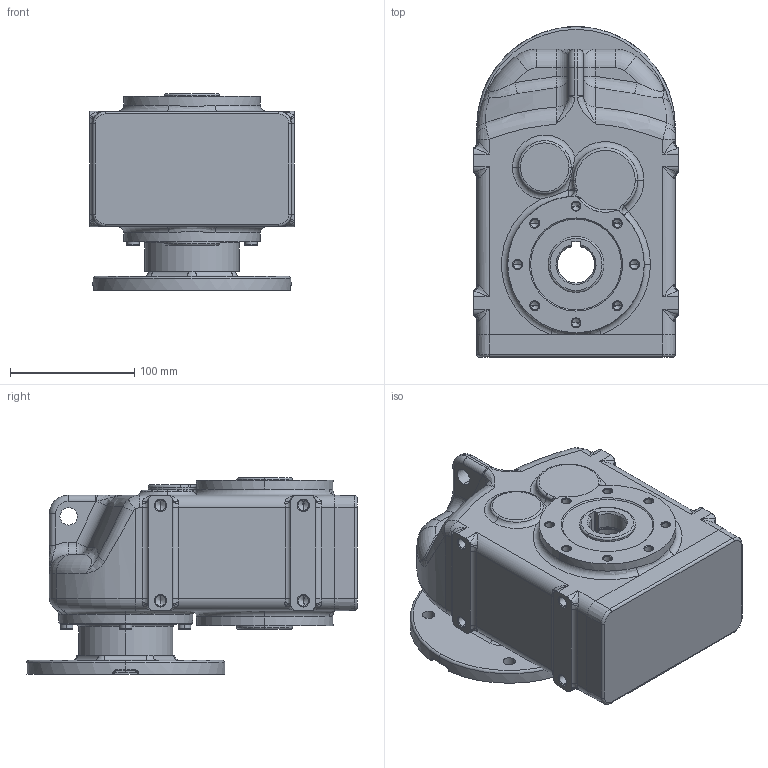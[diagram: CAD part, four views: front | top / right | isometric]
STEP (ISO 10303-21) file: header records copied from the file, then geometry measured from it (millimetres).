
FILE_DESCRIPTION (( 'STEP AP214' ), '1' );
FILE_NAME ('tnc13-f130-ap80.STEP', '2009-09-25T08:13:29', ( '' ), ( '' ), 'SwSTEP 2.0', 'SolidWorks 2003240', '' );
FILE_SCHEMA (( 'AUTOMOTIVE_DESIGN' ));
Length unit declared in the file: millimetre
Products named in the file (4): tnc13-f130-ap80; pøíruba d55 MRT60a_pøíruba 110-130-160; Skøíò TNC1_Skøíò TNC13 AP80; D6912_Šroub DIN 6912 - M6x20
Assembly tree (8 placements, depth 2):
  tnc13-f130-ap80
    D6912_Šroub DIN 6912 - M6x20  x6
    Skøíò TNC1_Skøíò TNC13 AP80
    pøíruba d55 MRT60a_pøíruba 110-130-160
Bounding box: 165 x 266.21 x 158 mm (x, y, z)
Volume: 3771878.8 mm3; surface area: 242444.1 mm2
Topology: 8 solids, 8 shells, 1151 faces, 2650 edges, 1482 vertices
Faces by surface type: cylinder 276, torus 270, cone 253, plane 183, bspline 164, sphere 5
Entity records: 148229 total; most frequent: CARTESIAN_POINT 125716, DIRECTION 4763, ORIENTED_EDGE 4472, EDGE_CURVE 2236, AXIS2_PLACEMENT_3D 2089, VERTEX_POINT 1327, CIRCLE 1276, EDGE_LOOP 1043
